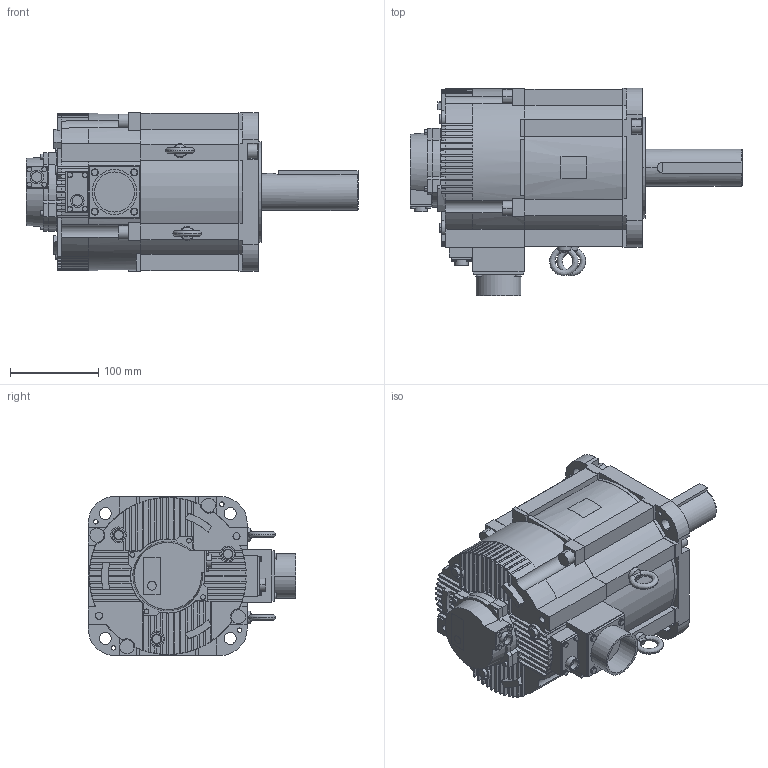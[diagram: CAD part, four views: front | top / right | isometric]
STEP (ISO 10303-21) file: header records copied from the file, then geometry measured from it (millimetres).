
FILE_DESCRIPTION( (''), '2;1');
FILE_NAME ('SGMXG-55AUA6CC2.stp','2022-03-02T11:34:53',(''),(''),'spGate 15.6.6','','');
FILE_SCHEMA (('AUTOMOTIVE_DESIGN'));
Length unit declared in the file: millimetre
Products named in the file (3): Assembly; SGMXG-55AUA6CC2-prt0; SGMXG-55AUA6CC2-prt1
Assembly tree (2 placements, depth 2):
  Assembly
    SGMXG-55AUA6CC2-prt0
    SGMXG-55AUA6CC2-prt1
Bounding box: 376.2 x 235 x 180 mm (x, y, z)
Volume: 6465864.4 mm3; surface area: 313426.3 mm2
Topology: 2 solids, 2 shells, 869 faces, 2359 edges, 1556 vertices
Faces by surface type: plane 551, cylinder 246, bspline 72
Entity records: 47118 total; most frequent: CARTESIAN_POINT 6529, ORIENTED_EDGE 4718, DIRECTION 4518, COLOUR_RGB 3230, PRESENTATION_STYLE_ASSIGNMENT 3230, STYLED_ITEM 3230, EDGE_CURVE 2359, DRAUGHTING_PRE_DEFINED_CURVE_FONT 2359
